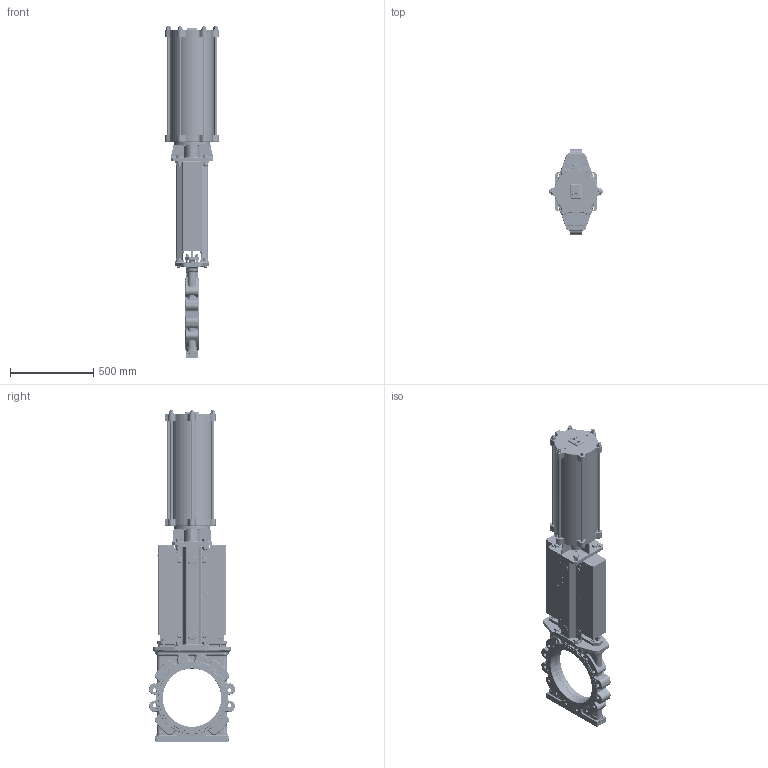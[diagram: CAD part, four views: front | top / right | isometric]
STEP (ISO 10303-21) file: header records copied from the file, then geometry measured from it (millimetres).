
FILE_DESCRIPTION(/* description */ (''),/* implementation_level */ '2;1');
FILE_NAME(/* name */ 'F:\Emir\3D-block special\SLV\SLV-DN350-PN10-FRSC250-450.stp',/* time_stamp */ '2018-09-03T14:58:03+02:00',/* author */ ('emimus'),/* organization */ (''),/* preprocessor_version */ 'ST-DEVELOPER v17',/* originating_system */ 'Autodesk Inventor 2018',/* authorisation */ '');
FILE_SCHEMA (('CONFIG_CONTROL_DESIGN'));
Products named in the file (1): SLV-DN350-PN10-FRSC250-450_Sat
Bounding box: 322 x 515.8 x 1991.5 mm (x, y, z)
Volume: 27516651.2 mm3; surface area: 5545591.8 mm2
Topology: 1 solids, 1 shells, 3708 faces, 9076 edges, 5596 vertices
Faces by surface type: plane 1269, cylinder 1087, torus 440, bspline 430, cone 324, sphere 158
Full cylindrical faces by diameter (mm): 2.459 x8, 3.5 x8, 4 x24, 4.917 x19, 5 x8, 6 x1, 6.647 x4, 7 x12, 7.5 x4, 8 x12, 8.376 x4, 8.88 x1, 9.5 x2, 10.106 x6, 10.75 x4, 12 x10, 12.5 x6, 13 x8, 14 x7, 15 x9, 16 x12, 17 x6, 17.294 x24, 17.5 x6, 18 x1, 18.2 x4, 18.5 x2, 18.631 x2, 19 x8, 20 x8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
Entity records: 172357 total; most frequent: CARTESIAN_POINT 86020, DIRECTION 18734, ORIENTED_EDGE 17984, EDGE_CURVE 8992, AXIS2_PLACEMENT_3D 7780, VERTEX_POINT 5594, CIRCLE 4373, EDGE_LOOP 4174
